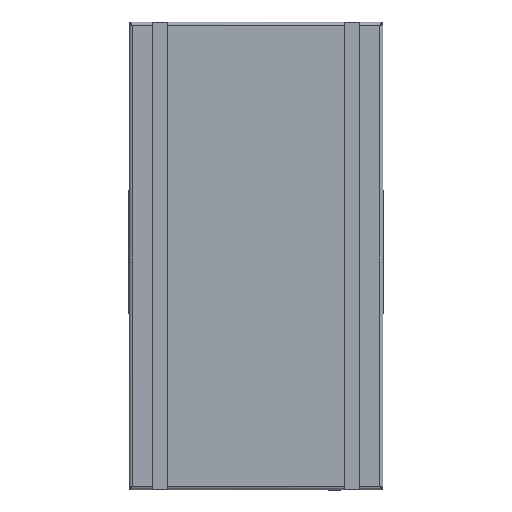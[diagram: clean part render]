
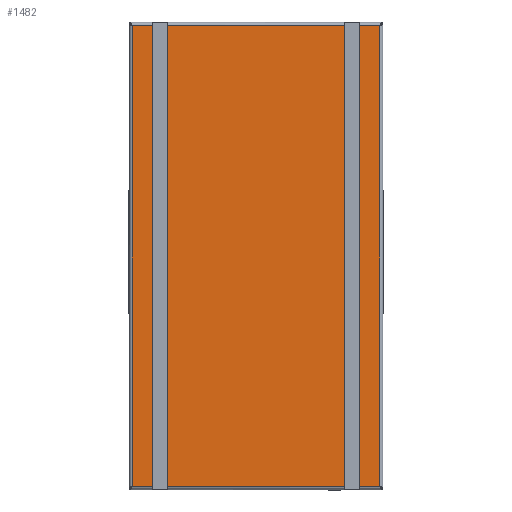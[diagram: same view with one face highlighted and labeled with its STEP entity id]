
A CAD part, top view. The second image highlights one B-rep face of the part: STEP entity #1482.
In plain terms, the highlighted planar face has unit normal (0, 0, 1).
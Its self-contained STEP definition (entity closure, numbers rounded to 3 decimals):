
#1482 = ADVANCED_FACE ( 'NONE', ( #18590 ), #70431, .F. ) ;
#2178 = LINE ( 'NONE', #68524, #93657 ) ;
#9048 = CARTESIAN_POINT ( 'NONE',  ( -4.03, -7.515, 0. ) ) ;
#9879 = DIRECTION ( 'NONE',  ( 0., 0., -1. ) ) ;
#12546 = VECTOR ( 'NONE', #14086, 39.37 ) ;
#14086 = DIRECTION ( 'NONE',  ( 0., 1., 0. ) ) ;
#16933 = DIRECTION ( 'NONE',  ( 1., 0., 0. ) ) ;
#18590 = FACE_OUTER_BOUND ( 'NONE', #43506, .T. ) ;
#20190 = ORIENTED_EDGE ( 'NONE', *, *, #58229, .T. ) ;
#33580 = CARTESIAN_POINT ( 'NONE',  ( 0., 0., 0. ) ) ;
#34032 = DIRECTION ( 'NONE',  ( 0., -1., 0. ) ) ;
#35652 = VECTOR ( 'NONE', #34032, 39.37 ) ;
#40525 = EDGE_CURVE ( 'NONE', #66467, #83976, #58319, .T. ) ;
#43506 = EDGE_LOOP ( 'NONE', ( #85761, #53286, #103747, #20190 ) ) ;
#44303 = CARTESIAN_POINT ( 'NONE',  ( 4.03, 7.515, 0. ) ) ;
#46525 = AXIS2_PLACEMENT_3D ( 'NONE', #33580, #9879, #100562 ) ;
#53286 = ORIENTED_EDGE ( 'NONE', *, *, #40525, .T. ) ;
#57523 = EDGE_CURVE ( 'NONE', #60735, #66467, #2178, .T. ) ;
#58229 = EDGE_CURVE ( 'NONE', #108361, #60735, #81427, .T. ) ;
#58319 = LINE ( 'NONE', #74318, #12546 ) ;
#60735 = VERTEX_POINT ( 'NONE', #9048 ) ;
#66467 = VERTEX_POINT ( 'NONE', #80337 ) ;
#68524 = CARTESIAN_POINT ( 'NONE',  ( -4.03, -7.515, 0. ) ) ;
#70431 = PLANE ( 'NONE',  #46525 ) ;
#74318 = CARTESIAN_POINT ( 'NONE',  ( 4.03, -7.515, 0. ) ) ;
#78695 = LINE ( 'NONE', #93474, #106940 ) ;
#80337 = CARTESIAN_POINT ( 'NONE',  ( 4.03, -7.515, 0. ) ) ;
#81427 = LINE ( 'NONE', #94194, #35652 ) ;
#83976 = VERTEX_POINT ( 'NONE', #44303 ) ;
#85761 = ORIENTED_EDGE ( 'NONE', *, *, #57523, .T. ) ;
#93474 = CARTESIAN_POINT ( 'NONE',  ( 4.03, 7.515, 0. ) ) ;
#93657 = VECTOR ( 'NONE', #16933, 39.37 ) ;
#94194 = CARTESIAN_POINT ( 'NONE',  ( -4.03, 7.515, 0. ) ) ;
#99262 = CARTESIAN_POINT ( 'NONE',  ( -4.03, 7.515, 0. ) ) ;
#100562 = DIRECTION ( 'NONE',  ( -1., 0., 0. ) ) ;
#102095 = DIRECTION ( 'NONE',  ( -1., 0., 0. ) ) ;
#103747 = ORIENTED_EDGE ( 'NONE', *, *, #107684, .T. ) ;
#106940 = VECTOR ( 'NONE', #102095, 39.37 ) ;
#107684 = EDGE_CURVE ( 'NONE', #83976, #108361, #78695, .T. ) ;
#108361 = VERTEX_POINT ( 'NONE', #99262 ) ;
